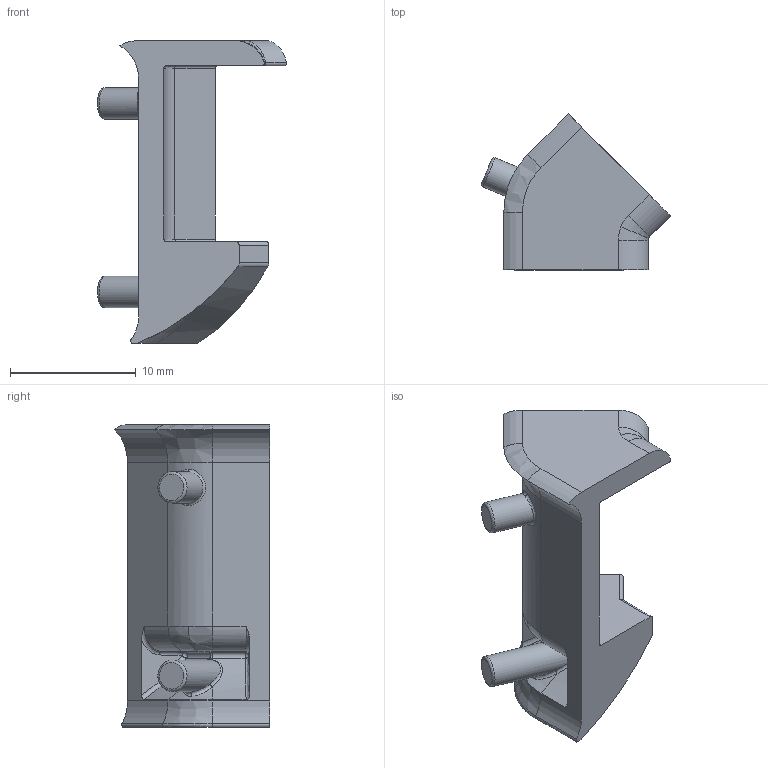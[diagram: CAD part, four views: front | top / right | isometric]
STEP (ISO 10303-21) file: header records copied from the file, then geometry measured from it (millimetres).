
FILE_DESCRIPTION (( 'STEP AP214' ), '1' );
FILE_NAME ('L15866.step', '2024-12-03T16:20:21', ( '' ), ( '' ), 'SwSTEP 2.0', 'SolidWorks 2023', '' );
FILE_SCHEMA (( 'AUTOMOTIVE_DESIGN' ));
Length unit declared in the file: millimetre
Products named in the file (1): L15866
Bounding box: 15.04 x 12.4 x 24.1 mm (x, y, z)
Volume: 961.8 mm3; surface area: 1155.6 mm2
Topology: 1 solids, 1 shells, 87 faces, 243 edges, 158 vertices
Faces by surface type: cylinder 35, bspline 33, plane 18, cone 1
Full cylindrical faces by diameter (mm): 2.5 x2
Entity records: 4261 total; most frequent: CARTESIAN_POINT 2283, ORIENTED_EDGE 468, DIRECTION 338, EDGE_CURVE 234, VERTEX_POINT 154, AXIS2_PLACEMENT_3D 132, EDGE_LOOP 92, FACE_OUTER_BOUND 91
